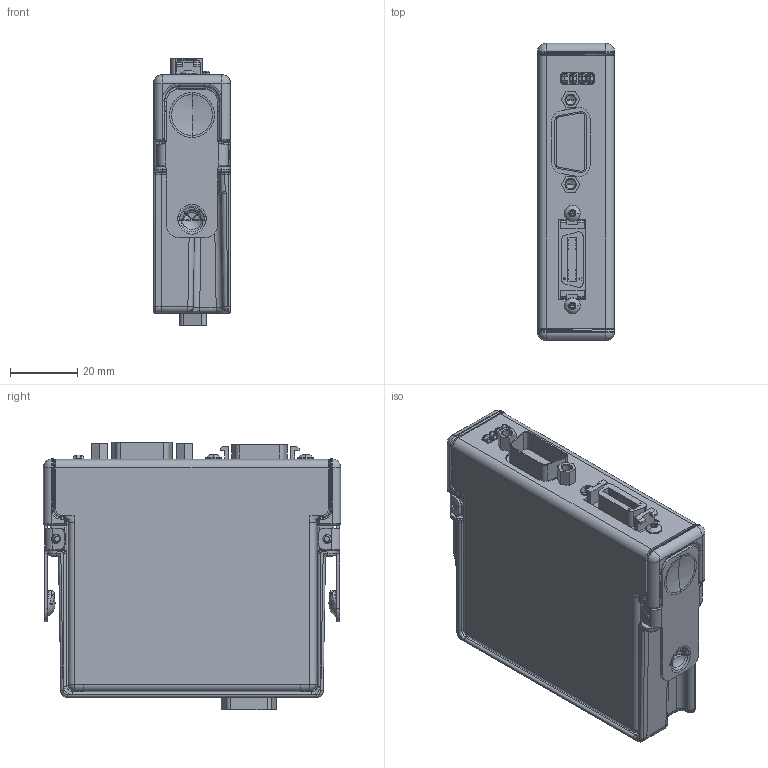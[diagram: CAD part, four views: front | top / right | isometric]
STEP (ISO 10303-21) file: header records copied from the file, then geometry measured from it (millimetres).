
FILE_DESCRIPTION((''),'2;1');
FILE_NAME('CU_CRIO-951X_06-06-2013','2013-06-06T',('jbuhisan'),(''),'PRO/ENGINEER BY PARAMETRIC TECHNOLOGY CORPORATION, 2011490','PRO/ENGINEER BY PARAMETRIC TECHNOLOGY CORPORATION, 2011490','');
FILE_SCHEMA(('CONFIG_CONTROL_DESIGN'));
Products named in the file (1): CU_CRIO-951X_06-06-2013
Bounding box: 22.86 x 88.11 x 79.32 mm (x, y, z)
Volume: 41092.5 mm3; surface area: 48542.1 mm2
Topology: 10 solids, 10 shells, 1923 faces, 4838 edges, 2923 vertices
Faces by surface type: plane 738, cylinder 583, bspline 407, torus 73, sphere 61, cone 47, extrusion 14
Entity records: 87163 total; most frequent: CARTESIAN_POINT 44645, ORIENTED_EDGE 9514, DIRECTION 7683, EDGE_CURVE 4757, VERTEX_POINT 2961, AXIS2_PLACEMENT_3D 2604, VECTOR 2475, LINE 2461
